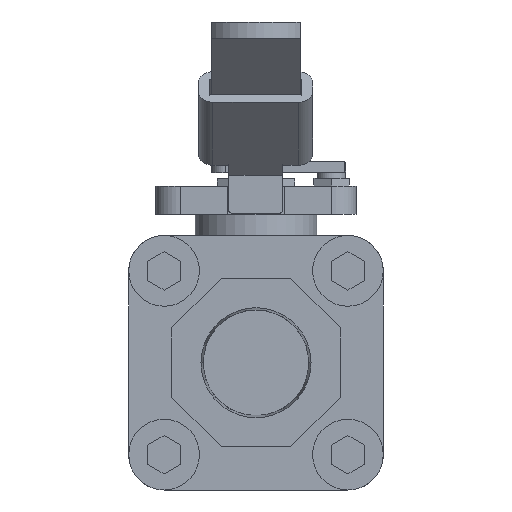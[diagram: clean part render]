
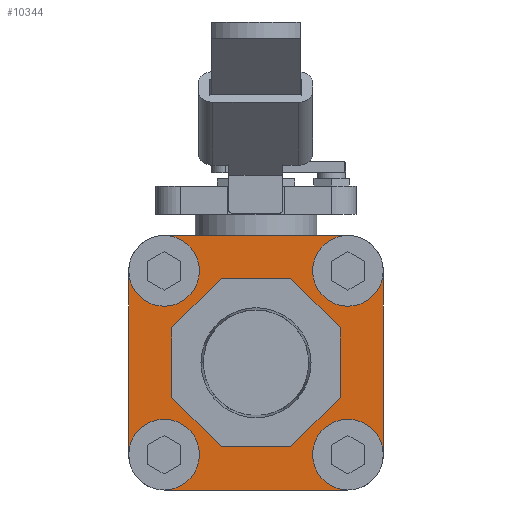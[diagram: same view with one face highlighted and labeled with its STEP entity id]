
A CAD part, left-side view. The second image highlights one B-rep face of the part: STEP entity #10344.
In plain terms, the highlighted planar face has unit normal (-1, 0, 0).
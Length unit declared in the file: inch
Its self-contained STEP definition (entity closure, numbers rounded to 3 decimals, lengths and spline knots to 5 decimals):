
#9941=CARTESIAN_POINT('',(0.5,-0.595,0.24646));
#9942=VERTEX_POINT('',#9941);
#9943=CARTESIAN_POINT('',(0.5,-0.595,-0.24646));
#9944=VERTEX_POINT('',#9943);
#9945=CARTESIAN_POINT('',(0.5,-0.595,0.24646));
#9946=DIRECTION('',(0.0,0.0,-1.0));
#9947=VECTOR('',#9946,0.49291);
#9948=LINE('',#9945,#9947);
#9949=EDGE_CURVE('',#9942,#9944,#9948,.T.);
#9981=CARTESIAN_POINT('',(0.5,-0.24646,0.595));
#9982=VERTEX_POINT('',#9981);
#9983=CARTESIAN_POINT('',(0.5,-0.24646,0.595));
#9984=DIRECTION('',(0.0,-0.707,-0.707));
#9985=VECTOR('',#9984,0.49291);
#9986=LINE('',#9983,#9985);
#9987=EDGE_CURVE('',#9982,#9942,#9986,.T.);
#10012=CARTESIAN_POINT('',(0.5,0.24646,0.595));
#10013=VERTEX_POINT('',#10012);
#10014=CARTESIAN_POINT('',(0.5,0.24646,0.595));
#10015=DIRECTION('',(0.0,-1.0,0.0));
#10016=VECTOR('',#10015,0.49291);
#10017=LINE('',#10014,#10016);
#10018=EDGE_CURVE('',#10013,#9982,#10017,.T.);
#10043=CARTESIAN_POINT('',(0.5,0.595,0.24646));
#10044=VERTEX_POINT('',#10043);
#10045=CARTESIAN_POINT('',(0.5,0.595,0.24646));
#10046=DIRECTION('',(0.0,-0.707,0.707));
#10047=VECTOR('',#10046,0.49291);
#10048=LINE('',#10045,#10047);
#10049=EDGE_CURVE('',#10044,#10013,#10048,.T.);
#10074=CARTESIAN_POINT('',(0.5,0.595,-0.24646));
#10075=VERTEX_POINT('',#10074);
#10076=CARTESIAN_POINT('',(0.5,0.595,-0.24646));
#10077=DIRECTION('',(0.0,0.0,1.0));
#10078=VECTOR('',#10077,0.49291);
#10079=LINE('',#10076,#10078);
#10080=EDGE_CURVE('',#10075,#10044,#10079,.T.);
#10105=CARTESIAN_POINT('',(0.5,0.24646,-0.595));
#10106=VERTEX_POINT('',#10105);
#10107=CARTESIAN_POINT('',(0.5,0.24646,-0.595));
#10108=DIRECTION('',(0.0,0.707,0.707));
#10109=VECTOR('',#10108,0.49291);
#10110=LINE('',#10107,#10109);
#10111=EDGE_CURVE('',#10106,#10075,#10110,.T.);
#10136=CARTESIAN_POINT('',(0.5,-0.24646,-0.595));
#10137=VERTEX_POINT('',#10136);
#10138=CARTESIAN_POINT('',(0.5,-0.24646,-0.595));
#10139=DIRECTION('',(0.0,1.0,0.0));
#10140=VECTOR('',#10139,0.49291);
#10141=LINE('',#10138,#10140);
#10142=EDGE_CURVE('',#10137,#10106,#10141,.T.);
#10167=CARTESIAN_POINT('',(0.5,-0.595,-0.24646));
#10168=DIRECTION('',(0.0,0.707,-0.707));
#10169=VECTOR('',#10168,0.49291);
#10170=LINE('',#10167,#10169);
#10171=EDGE_CURVE('',#9944,#10137,#10170,.T.);
#10219=CARTESIAN_POINT('',(0.5,0.9,0.65));
#10220=VERTEX_POINT('',#10219);
#10227=CARTESIAN_POINT('',(0.5,0.65,0.9));
#10228=VERTEX_POINT('',#10227);
#10229=CARTESIAN_POINT('',(0.5,0.65,0.65));
#10230=DIRECTION('',(1.0,0.0,0.0));
#10231=DIRECTION('',(0.0,0.707,0.707));
#10232=AXIS2_PLACEMENT_3D('',#10229,#10230,#10231);
#10233=CIRCLE('',#10232,0.25);
#10234=EDGE_CURVE('',#10220,#10228,#10233,.T.);
#10251=CARTESIAN_POINT('',(0.5,-0.65,0.9));
#10252=VERTEX_POINT('',#10251);
#10253=CARTESIAN_POINT('',(0.5,-0.65,0.9));
#10254=DIRECTION('',(0.0,1.0,0.0));
#10255=VECTOR('',#10254,1.3);
#10256=LINE('',#10253,#10255);
#10257=EDGE_CURVE('',#10252,#10228,#10256,.T.);
#10276=CARTESIAN_POINT('',(0.5,0.0,0.0));
#10277=DIRECTION('',(1.0,0.0,0.0));
#10278=DIRECTION('',(0.0,0.0,-1.0));
#10279=AXIS2_PLACEMENT_3D('',#10276,#10277,#10278);
#10280=PLANE('',#10279);
#10281=CARTESIAN_POINT('',(0.5,0.65,-0.9));
#10282=VERTEX_POINT('',#10281);
#10283=CARTESIAN_POINT('',(0.5,0.9,-0.65));
#10284=VERTEX_POINT('',#10283);
#10285=CARTESIAN_POINT('',(0.5,0.65,-0.65));
#10286=DIRECTION('',(1.0,0.0,0.0));
#10287=DIRECTION('',(0.0,0.707,-0.707));
#10288=AXIS2_PLACEMENT_3D('',#10285,#10286,#10287);
#10289=CIRCLE('',#10288,0.25);
#10290=EDGE_CURVE('',#10282,#10284,#10289,.T.);
#10291=ORIENTED_EDGE('',*,*,#10290,.F.);
#10292=CARTESIAN_POINT('',(0.5,-0.65,-0.9));
#10293=VERTEX_POINT('',#10292);
#10294=CARTESIAN_POINT('',(0.5,0.65,-0.9));
#10295=DIRECTION('',(0.0,-1.0,0.0));
#10296=VECTOR('',#10295,1.3);
#10297=LINE('',#10294,#10296);
#10298=EDGE_CURVE('',#10282,#10293,#10297,.T.);
#10299=ORIENTED_EDGE('',*,*,#10298,.T.);
#10300=CARTESIAN_POINT('',(0.5,-0.9,-0.65));
#10301=VERTEX_POINT('',#10300);
#10302=CARTESIAN_POINT('',(0.5,-0.65,-0.65));
#10303=DIRECTION('',(1.0,0.0,0.0));
#10304=DIRECTION('',(0.0,-0.707,-0.707));
#10305=AXIS2_PLACEMENT_3D('',#10302,#10303,#10304);
#10306=CIRCLE('',#10305,0.25);
#10307=EDGE_CURVE('',#10301,#10293,#10306,.T.);
#10308=ORIENTED_EDGE('',*,*,#10307,.F.);
#10309=CARTESIAN_POINT('',(0.5,-0.9,0.65));
#10310=VERTEX_POINT('',#10309);
#10311=CARTESIAN_POINT('',(0.5,-0.9,-0.65));
#10312=DIRECTION('',(0.0,0.0,1.0));
#10313=VECTOR('',#10312,1.3);
#10314=LINE('',#10311,#10313);
#10315=EDGE_CURVE('',#10301,#10310,#10314,.T.);
#10316=ORIENTED_EDGE('',*,*,#10315,.T.);
#10317=CARTESIAN_POINT('',(0.5,-0.65,0.65));
#10318=DIRECTION('',(1.0,0.0,0.0));
#10319=DIRECTION('',(0.0,-0.707,0.707));
#10320=AXIS2_PLACEMENT_3D('',#10317,#10318,#10319);
#10321=CIRCLE('',#10320,0.25);
#10322=EDGE_CURVE('',#10252,#10310,#10321,.T.);
#10323=ORIENTED_EDGE('',*,*,#10322,.F.);
#10324=ORIENTED_EDGE('',*,*,#10257,.T.);
#10325=ORIENTED_EDGE('',*,*,#10234,.F.);
#10326=CARTESIAN_POINT('',(0.5,0.9,0.65));
#10327=DIRECTION('',(0.0,0.0,-1.0));
#10328=VECTOR('',#10327,1.3);
#10329=LINE('',#10326,#10328);
#10330=EDGE_CURVE('',#10220,#10284,#10329,.T.);
#10331=ORIENTED_EDGE('',*,*,#10330,.T.);
#10332=EDGE_LOOP('',(#10291,#10299,#10308,#10316,#10323,#10324,#10325,#10331));
#10333=FACE_OUTER_BOUND('',#10332,.T.);
#10334=ORIENTED_EDGE('',*,*,#9949,.T.);
#10335=ORIENTED_EDGE('',*,*,#10171,.T.);
#10336=ORIENTED_EDGE('',*,*,#10142,.T.);
#10337=ORIENTED_EDGE('',*,*,#10111,.T.);
#10338=ORIENTED_EDGE('',*,*,#10080,.T.);
#10339=ORIENTED_EDGE('',*,*,#10049,.T.);
#10340=ORIENTED_EDGE('',*,*,#10018,.T.);
#10341=ORIENTED_EDGE('',*,*,#9987,.T.);
#10342=EDGE_LOOP('',(#10334,#10335,#10336,#10337,#10338,#10339,#10340,#10341));
#10343=FACE_BOUND('',#10342,.T.);
#10344=ADVANCED_FACE('',(#10333,#10343),#10280,.F.);
